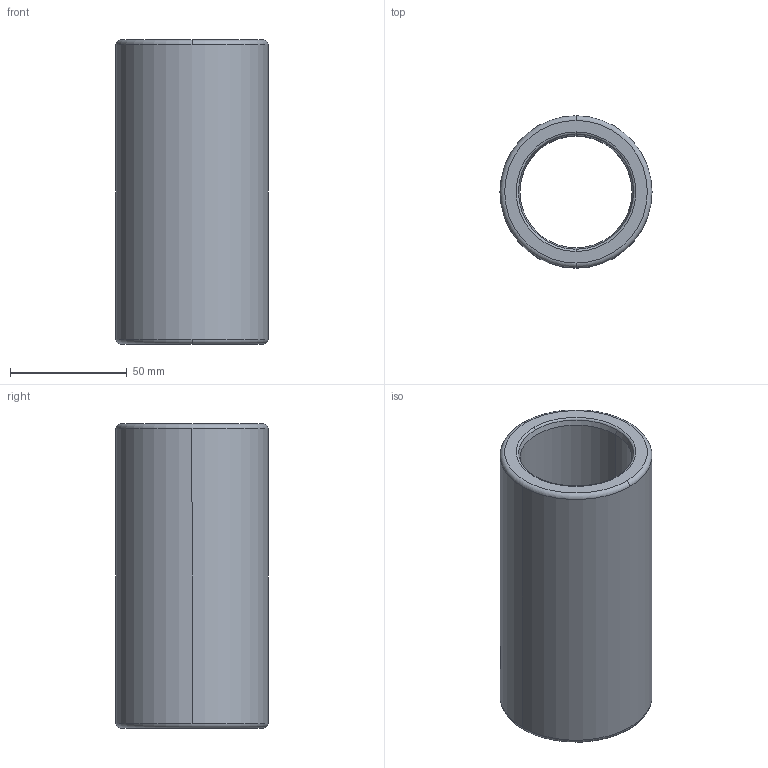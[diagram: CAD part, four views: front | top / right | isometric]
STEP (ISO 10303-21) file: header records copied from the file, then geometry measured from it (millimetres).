
FILE_DESCRIPTION((''),'2;1');
FILE_NAME('B30_040_130.stp','2009-01-12T10:50:34',(''),(''),'Mechanical Desktop 2009','Mechanical Desktop 2009',', , ');
FILE_SCHEMA(('CONFIG_CONTROL_DESIGN'));
Length unit declared in the file: millimetre
Products named in the file (2): Product; blmdl1
Assembly tree (1 placements, depth 2):
  Product
    blmdl1
Bounding box: 64.99 x 64.99 x 130 mm (x, y, z)
Volume: 195580.8 mm3; surface area: 48525 mm2
Topology: 1 solids, 1 shells, 18 faces, 48 edges, 32 vertices
Faces by surface type: torus 8, cylinder 4, cone 4, plane 2
Entity records: 705 total; most frequent: DIRECTION 128, CARTESIAN_POINT 100, ORIENTED_EDGE 96, AXIS2_PLACEMENT_3D 60, EDGE_CURVE 48, CIRCLE 40, VERTEX_POINT 32, EDGE_LOOP 20
